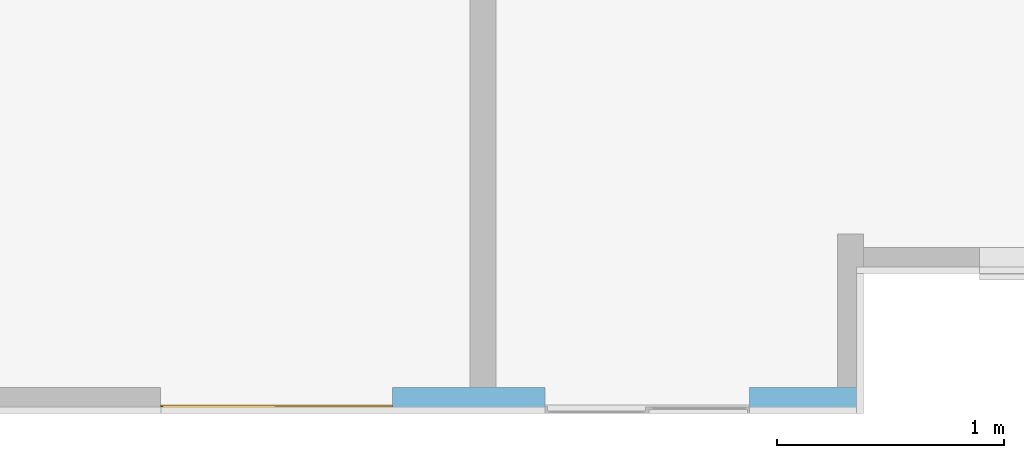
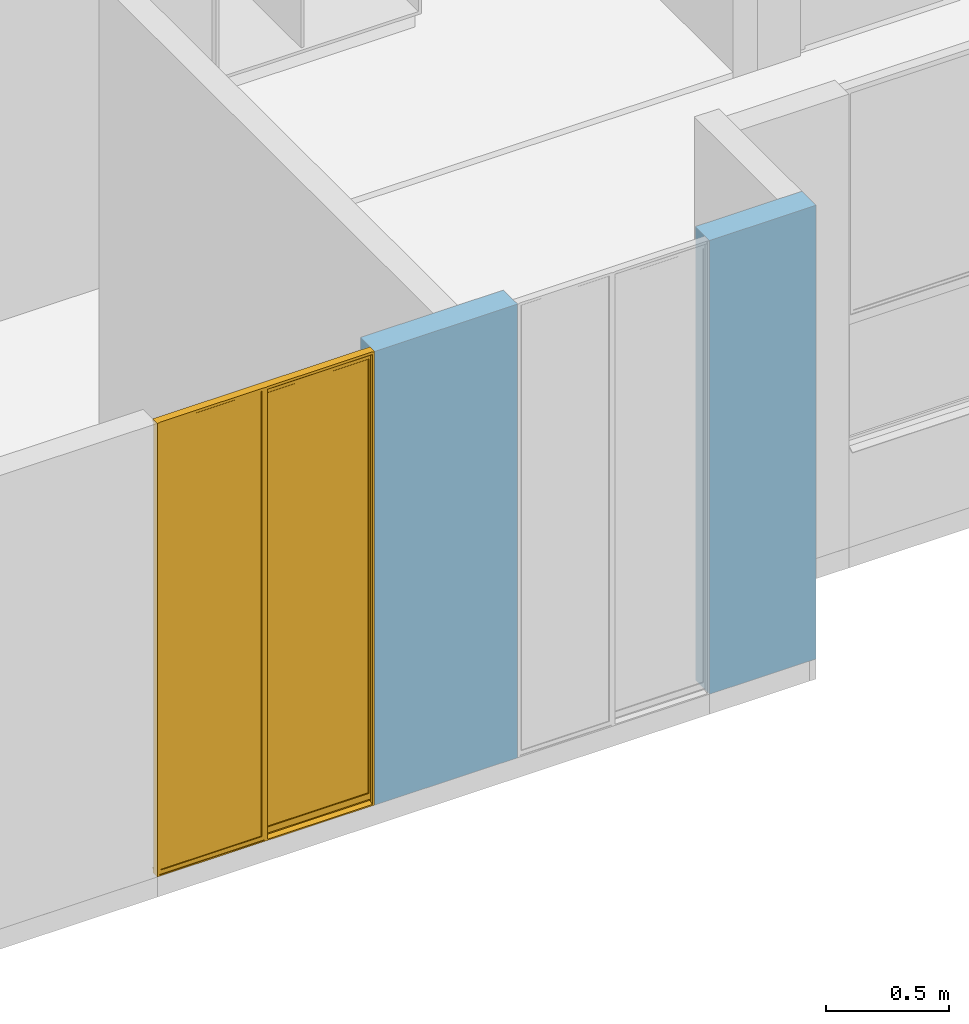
# One storey, part 5 of 48: 1 window, 2 openings, plus 1 element that does not belong to this part.
"""IFC4 building model written with IfcOpenShell, lengths in metres."""

from ifc_helpers import new_model, entity, si_unit, converted_unit, derived_unit, direction, frame, origin, place, context, subcontext, project, spatial, indexed_curve, outline, extrude, polygons, source, transform, mapped, material, constituent, constituent_set, type_object, type_shapes, element, fill, save


model = new_model("IFC4")

# Units and contexts
model_context = context("Model", 3, precision=1e-05, world=origin(), true_north=direction((6.123031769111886e-17, 1.0)))
body_context = subcontext(model_context, "Body", "Model", "MODEL_VIEW")
ifc_project = project(units=[si_unit("LENGTHUNIT", "METRE"), si_unit("AREAUNIT", "SQUARE_METRE"), si_unit("VOLUMEUNIT", "CUBIC_METRE"), converted_unit("PLANEANGLEUNIT", "DEGREE", entity("IfcRatioMeasure", 0.017453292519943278), si_unit("PLANEANGLEUNIT", "RADIAN"), dimensions=[0, 0, 0, 0, 0, 0, 0]), si_unit("MASSUNIT", "GRAM", prefix="KILO"), derived_unit("MASSDENSITYUNIT", [(si_unit("MASSUNIT", "GRAM", prefix="KILO"), 1), (si_unit("LENGTHUNIT", "METRE"), -3)]), derived_unit("IONCONCENTRATIONUNIT", [(si_unit("MASSUNIT", "GRAM", prefix="KILO"), 1), (si_unit("LENGTHUNIT", "METRE"), -3)]), derived_unit("MOMENTOFINERTIAUNIT", [(si_unit("LENGTHUNIT", "METRE"), 4)]), si_unit("TIMEUNIT", "SECOND"), si_unit("FREQUENCYUNIT", "HERTZ"), si_unit("THERMODYNAMICTEMPERATUREUNIT", "DEGREE_CELSIUS"), derived_unit("THERMALTRANSMITTANCEUNIT", [(si_unit("MASSUNIT", "GRAM", prefix="KILO"), 1), (si_unit("THERMODYNAMICTEMPERATUREUNIT", "KELVIN"), -1), (si_unit("TIMEUNIT", "SECOND"), -3)]), derived_unit("THERMALCONDUCTANCEUNIT", [(si_unit("MASSUNIT", "GRAM", prefix="KILO"), 1), (si_unit("THERMODYNAMICTEMPERATUREUNIT", "KELVIN"), -1), (si_unit("TIMEUNIT", "SECOND"), -3), (si_unit("LENGTHUNIT", "METRE"), 1)]), derived_unit("VOLUMETRICFLOWRATEUNIT", [(si_unit("LENGTHUNIT", "METRE"), 3), (si_unit("TIMEUNIT", "SECOND"), -1)]), derived_unit("MASSFLOWRATEUNIT", [(si_unit("MASSUNIT", "GRAM", prefix="KILO"), 1), (si_unit("TIMEUNIT", "SECOND"), -1)]), derived_unit("ROTATIONALFREQUENCYUNIT", [(si_unit("TIMEUNIT", "SECOND"), -1)]), si_unit("ELECTRICCURRENTUNIT", "AMPERE"), si_unit("ELECTRICVOLTAGEUNIT", "VOLT"), si_unit("POWERUNIT", "WATT"), si_unit("FORCEUNIT", "NEWTON", prefix="KILO"), si_unit("ILLUMINANCEUNIT", "LUX"), si_unit("LUMINOUSFLUXUNIT", "LUMEN"), si_unit("LUMINOUSINTENSITYUNIT", "CANDELA"), derived_unit("USERDEFINED", [(si_unit("MASSUNIT", "GRAM", prefix="KILO"), -1), (si_unit("LENGTHUNIT", "METRE"), -2), (si_unit("TIMEUNIT", "SECOND"), 3), (si_unit("LUMINOUSFLUXUNIT", "LUMEN"), 1)]), derived_unit("USERDEFINED", [(si_unit("MASSUNIT", "GRAM", prefix="KILO"), 1), (si_unit("TIMEUNIT", "SECOND"), -3), (si_unit("LENGTHUNIT", "METRE"), 3), (si_unit("ELECTRICCURRENTUNIT", "AMPERE"), -2)]), derived_unit("SOUNDPOWERUNIT", [(si_unit("MASSUNIT", "GRAM", prefix="KILO"), 1), (si_unit("TIMEUNIT", "SECOND"), -3), (si_unit("LENGTHUNIT", "METRE"), 2)]), derived_unit("SOUNDPRESSUREUNIT", [(si_unit("MASSUNIT", "GRAM", prefix="KILO"), 1), (si_unit("LENGTHUNIT", "METRE"), -1), (si_unit("TIMEUNIT", "SECOND"), -2)]), derived_unit("LINEARVELOCITYUNIT", [(si_unit("LENGTHUNIT", "METRE"), 1), (si_unit("TIMEUNIT", "SECOND"), -1)]), si_unit("PRESSUREUNIT", "PASCAL"), derived_unit("USERDEFINED", [(si_unit("MASSUNIT", "GRAM", prefix="KILO"), 1), (si_unit("LENGTHUNIT", "METRE"), -2), (si_unit("TIMEUNIT", "SECOND"), -2)]), derived_unit("LINEARFORCEUNIT", [(si_unit("MASSUNIT", "GRAM", prefix="KILO"), 1), (si_unit("TIMEUNIT", "SECOND"), -2)]), derived_unit("PLANARFORCEUNIT", [(si_unit("MASSUNIT", "GRAM", prefix="KILO"), 1), (si_unit("LENGTHUNIT", "METRE"), -1), (si_unit("TIMEUNIT", "SECOND"), -2)]), derived_unit("SPECIFICHEATCAPACITYUNIT", [(si_unit("THERMODYNAMICTEMPERATUREUNIT", "KELVIN"), -1), (si_unit("LENGTHUNIT", "METRE"), 2), (si_unit("TIMEUNIT", "SECOND"), -2)]), derived_unit("HEATINGVALUEUNIT", [(si_unit("LENGTHUNIT", "METRE"), 2), (si_unit("TIMEUNIT", "SECOND"), -2)]), derived_unit("VAPORPERMEABILITYUNIT", [(si_unit("LENGTHUNIT", "METRE"), -1), (si_unit("TIMEUNIT", "SECOND"), 1)]), derived_unit("DYNAMICVISCOSITYUNIT", [(si_unit("MASSUNIT", "GRAM", prefix="KILO"), 1), (si_unit("TIMEUNIT", "SECOND"), -1), (si_unit("LENGTHUNIT", "METRE"), -1)]), derived_unit("THERMALEXPANSIONCOEFFICIENTUNIT", [(si_unit("THERMODYNAMICTEMPERATUREUNIT", "KELVIN"), -1)]), derived_unit("MODULUSOFELASTICITYUNIT", [(si_unit("MASSUNIT", "GRAM", prefix="KILO"), 1), (si_unit("LENGTHUNIT", "METRE"), -1), (si_unit("TIMEUNIT", "SECOND"), -2)]), derived_unit("ISOTHERMALMOISTURECAPACITYUNIT", [(si_unit("LENGTHUNIT", "METRE"), 3), (si_unit("MASSUNIT", "GRAM", prefix="KILO"), -1)]), derived_unit("MOISTUREDIFFUSIVITYUNIT", [(si_unit("TIMEUNIT", "SECOND"), -1), (si_unit("LENGTHUNIT", "METRE"), 2)])], contexts=[model_context])

# Site, building, storey
site_placement = place(None, origin())
site = spatial("IfcSite", under=ifc_project, at=site_placement, Name="Default", CompositionType="ELEMENT")
building_placement = place(site_placement, origin())
building = spatial("IfcBuilding", under=site, at=building_placement, CompositionType="ELEMENT")
storey_placement = place(building_placement, frame((0.0, 0.0, 9.40000000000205)))
storey = spatial("IfcBuildingStorey", under=building, at=storey_placement, Name="Nivel 5", CompositionType="ELEMENT", Elevation=9.40000000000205)

# Wall, openings, window
ifc_material_1 = material(Name="Ladrillo claro (Aire)", Category="Materials")
wall_type = type_object("IfcWallType", Name="Basic Wall:B2010 - 0.115m - Muro exterior en mampostería - Ladrillo", PredefinedType="STANDARD")
wall_placement = place(storey_placement, frame((6.182499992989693, -12.812500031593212, 0.0), z_axis=(0.0, 0.0, 1.0), x_axis=(-1.0, 0.0, 0.0)))
wall = element("IfcWall", 1, at=wall_placement, inside=storey, type_object=wall_type, material=ifc_material_1, Name="Basic Wall:B2010 - 0.115m - Muro exterior en mampostería - Ladrillo", ObjectType="Basic Wall:B2010 - 0.115m - Muro exterior en mampostería - Ladrillo", PredefinedType="NOTDEFINED", context=body_context, shape_type="Tessellation", body=[
    polygons([(7.744918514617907e-16, -0.057499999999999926, 2.250000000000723), (7.744918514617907e-16, -0.057499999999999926, -1.0828671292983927e-15), (0.11500000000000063, -0.057499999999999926, -1.0828671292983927e-15), (0.5000000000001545, -0.057499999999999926, -1.0828671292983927e-15), (0.5000000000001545, -0.057499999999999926, 2.250000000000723), (0.11500000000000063, -0.057499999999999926, 2.250000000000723), (1.371029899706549e-16, 0.057499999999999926, -1.0828671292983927e-15), (0.500000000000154, 0.057499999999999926, -1.0828671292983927e-15), (0.500000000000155, 0.057499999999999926, 2.250000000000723), (1.371029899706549e-16, 0.057499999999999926, 2.250000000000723)], [[[1, 2, 3, 4, 5, 6]], [[2, 7, 8, 4, 3]], [[5, 4, 8, 9]], [[2, 1, 10, 7]], [[10, 1, 6, 5, 9]], [[7, 10, 9, 8]]], closed=True),
    polygons([(2.0707999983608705, 0.057499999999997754, 2.250000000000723), (2.0707999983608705, 0.057499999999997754, -1.0828671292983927e-15), (1.4000000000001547, 0.057499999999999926, -1.0828671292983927e-15), (1.4000000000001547, 0.057499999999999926, 2.250000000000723), (2.07079999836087, -0.05750000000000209, 2.250000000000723), (1.4000000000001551, -0.057499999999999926, 2.250000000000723), (1.6149999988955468, -0.057499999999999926, 2.250000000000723), (1.7299999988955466, -0.057499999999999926, 2.250000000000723), (2.07079999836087, -0.05750000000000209, -1.0828671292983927e-15), (1.4000000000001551, -0.057499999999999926, -1.0828671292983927e-15), (1.729999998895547, -0.057499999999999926, -1.0828671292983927e-15), (1.6149999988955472, -0.057499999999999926, -1.0828671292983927e-15)], [[[1, 2, 3, 4]], [[5, 1, 4, 6, 7, 8]], [[5, 9, 2, 1]], [[10, 6, 4, 3]], [[2, 9, 11, 12, 10, 3]], [[9, 5, 8, 7, 6, 10, 12, 11]]], closed=True),
])
opening_1_placement = place(wall_placement, frame((3.0907999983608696, 0.057499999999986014, 0.0)))
opening_1 = element("IfcOpeningElement", 2, at=opening_1_placement, cuts=wall, Name="B2020 - Ventana corrediza 2C - Aluminio + Vidrio:B2020 - 1.02m x 2.25m - Ventana corrediza 2C - Aluminio + Vidrio:1", PredefinedType="OPENING", context=body_context, shape_type="SweptSolid", body=[
    extrude(outline(indexed_curve([(0.0, -7.326610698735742e-30), (2.2499999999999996, -7.326610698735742e-30), (2.249999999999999, 1.0199999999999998), (0.0, 1.0199999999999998), (0.0, -7.326610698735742e-30)], self_intersect=False)), frame((0.0, 0.0, 0.0), z_axis=(0.0, -1.0, 0.0), x_axis=(0.0, 0.0, 1.0)), (0.0, 0.0, 1.0), 0.115),
])
opening_2_placement = place(wall_placement, frame((1.4000000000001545, 0.05749999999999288, 0.0)))
element("IfcOpeningElement", 3, at=opening_2_placement, cuts=wall, Name="B2020 - Ventana corrediza 2C - Aluminio + Vidrio:B2020 - 0.90m x 2.25m - Ventana corrediza 2C - Aluminio + Vidrio:1", PredefinedType="OPENING", context=body_context, shape_type="SweptSolid", body=[
    extrude(outline(indexed_curve([(0.0, 1.3535839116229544e-16), (2.2499999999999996, 1.3535839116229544e-16), (2.249999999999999, 0.9), (0.0, 0.9), (0.0, 1.3535839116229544e-16)], self_intersect=False)), frame((0.0, 0.0, 0.0), z_axis=(0.0, -1.0, 0.0), x_axis=(0.0, 0.0, 1.0)), (0.0, 0.0, 1.0), 0.115),
])
ifc_material_2 = material(Name="Vidrio", Category="Materials")
ifc_constituent_1 = constituent(ifc_material_2, Name="Vidrio", Category="Materials")
ifc_material_3 = material(Name="<Unnamed>")
ifc_constituent_2 = constituent(ifc_material_3, Name="<Unnamed>")
ifc_constituent_set_1 = constituent_set(constituents=[ifc_constituent_1, ifc_constituent_2])
ifc_constituent_3 = constituent(ifc_material_2, Name="Vidrio", Category="Materials")
ifc_constituent_4 = constituent(ifc_material_3, Name="<Unnamed>")
ifc_constituent_set_2 = constituent_set(constituents=[ifc_constituent_3, ifc_constituent_4])
window_type = type_object("IfcWindowType", Name="B2020 - Ventana corrediza 2C - Aluminio + Vidrio:B2020 - 1.02m x 2.25m - Ventana corrediza 2C - Aluminio + Vidrio", PartitioningType="NOTDEFINED", PredefinedType="WINDOW", material=ifc_constituent_set_2)
shared_shape = source(origin(), body_context, "Body", "Tessellation", [
    polygons([(0.5301871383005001, 0.11311505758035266, 0.028641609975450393), (1.0000323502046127, 0.11311505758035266, 0.028641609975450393), (1.0000323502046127, 0.10801372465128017, 0.028641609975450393), (0.5301871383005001, 0.10801372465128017, 0.028641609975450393), (0.5301871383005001, 0.11311505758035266, 2.2347073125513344), (0.5301871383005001, 0.10801372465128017, 2.2347073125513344), (1.0000323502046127, 0.10801372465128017, 2.2347073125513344), (1.0000323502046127, 0.11311505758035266, 2.2347073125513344)], [[[1, 2, 3, 4]], [[5, 1, 4, 6]], [[6, 4, 3, 7]], [[7, 3, 2, 8]], [[8, 2, 1, 5]], [[5, 6, 7, 8]]], closed=True),
    polygons([(0.018846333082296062, 0.0962952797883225, 0.054189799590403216), (0.48827105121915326, 0.0962952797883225, 0.054189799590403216), (0.48827105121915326, 0.0919992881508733, 0.054189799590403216), (0.018846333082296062, 0.0919992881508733, 0.054189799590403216), (0.018846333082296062, 0.0962952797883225, 2.2043993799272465), (0.018846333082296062, 0.0919992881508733, 2.2043993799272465), (0.48827105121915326, 0.0919992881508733, 2.2043993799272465), (0.48827105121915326, 0.0962952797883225, 2.2043993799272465)], [[[1, 2, 3, 4]], [[5, 1, 4, 6]], [[6, 4, 3, 7]], [[7, 3, 2, 8]], [[8, 2, 1, 5]], [[5, 6, 7, 8]]], closed=True),
    polygons([(1.6039969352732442e-14, 0.08248628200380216, 0.020380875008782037), (1.6039969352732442e-14, 0.07981389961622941, 0.020380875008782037), (1.6039969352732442e-14, 0.07981389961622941, 0.025674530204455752), (1.6039969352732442e-14, 0.08106389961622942, 0.025674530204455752), (1.6039969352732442e-14, 0.08106389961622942, 0.02163087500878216), (1.6039969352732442e-14, 0.08373628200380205, 0.02163087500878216), (1.6039969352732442e-14, 0.08373628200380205, 0.017447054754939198), (1.6039969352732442e-14, 0.08932238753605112, 0.017447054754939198), (1.6039969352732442e-14, 0.08932238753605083, 2.24863686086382), (1.6039969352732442e-14, 0.0810593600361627, 2.24863686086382), (1.6039969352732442e-14, 0.0810593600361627, 2.2365872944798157), (1.6039969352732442e-14, 0.07969622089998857, 2.2365872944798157), (1.5972290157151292e-14, 0.07969622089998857, 2.2499999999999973), (1.6039969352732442e-14, 0.11748628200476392, 2.2499999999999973), (1.6039969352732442e-14, 0.11748628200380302, -2.5718094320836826e-15), (1.6039969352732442e-14, 0.08248628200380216, -2.5718094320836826e-15), (1.0200000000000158, 0.08248628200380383, 0.020380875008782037), (1.0200000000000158, 0.08248628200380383, -2.5718094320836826e-15), (1.0200000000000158, 0.11748628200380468, -2.5718094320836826e-15), (0.5166454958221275, 0.11748628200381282, 2.2499999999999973), (0.5166454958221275, 0.11748628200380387, 0.006176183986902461), (1.0100000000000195, 0.11748628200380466, 0.006176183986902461), (1.0100000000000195, 0.11748628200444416, 2.2499999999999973), (1.0200000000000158, 0.11748628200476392, 2.2499999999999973), (0.009897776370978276, 0.11748628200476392, 2.2499999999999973), (0.009897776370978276, 0.11748628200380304, 0.006176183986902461), (0.5033545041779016, 0.11748628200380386, 0.006176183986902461), (0.5033545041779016, 0.11748628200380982, 2.2499999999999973), (0.016298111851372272, 0.08932238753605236, 2.2069861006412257), (0.5033545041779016, 0.08932238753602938, 2.2069861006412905), (0.5033545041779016, 0.08932238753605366, 2.2043993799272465), (0.490819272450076, 0.08932238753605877, 2.2043993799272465), (0.4908192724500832, 0.08932238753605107, 0.0519155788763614), (0.01629811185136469, 0.0893223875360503, 0.0519155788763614), (0.01629811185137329, 0.08932238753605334, 2.237270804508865), (0.01629811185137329, 0.08932238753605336, 2.24863686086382), (0.003762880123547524, 0.08932238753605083, 0.017447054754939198), (0.003762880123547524, 0.08932238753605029, 0.02163087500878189), (0.5033545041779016, 0.08932238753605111, 0.021630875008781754), (0.5033545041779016, 0.08932238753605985, 0.017447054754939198), (0.5180471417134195, 0.08932238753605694, 0.017447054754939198), (0.5180471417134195, 0.08932238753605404, 2.24863686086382), (0.5033545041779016, 0.08932238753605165, 2.24863686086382), (0.5033545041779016, 0.0893223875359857, 2.237270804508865), (1.0200000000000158, 0.0837362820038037, 0.017447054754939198), (1.0200000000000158, 0.08548628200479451, 0.017447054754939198), (1.0100000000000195, 0.08548628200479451, 0.017447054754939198), (1.0100000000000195, 0.09284764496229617, 0.017447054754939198), (0.5180471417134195, 0.09284764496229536, 0.017447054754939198), (0.5033545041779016, 0.09284764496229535, 0.017447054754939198), (0.003762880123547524, 0.09284764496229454, 0.017447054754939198), (1.0200000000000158, 0.0837362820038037, 0.02163087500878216), (1.0200000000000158, 0.08106389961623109, 0.02163087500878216), (1.0200000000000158, 0.08106389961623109, 0.025674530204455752), (1.0200000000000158, 0.07981389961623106, 0.025674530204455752), (1.0200000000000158, 0.07981389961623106, 0.020380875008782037), (0.018842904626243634, 0.09629339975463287, 0.054191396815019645), (0.4882772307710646, 0.09629080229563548, 0.054191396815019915), (0.4908192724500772, 0.09897218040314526, 0.051915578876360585), (0.016298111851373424, 0.0989721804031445, 0.051915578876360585), (0.016298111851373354, 0.09897218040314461, 2.237270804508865), (0.016298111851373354, 0.09897218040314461, 2.24863686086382), (0.01884633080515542, 0.0962732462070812, 2.24863686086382), (0.01884631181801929, 0.0962733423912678, 2.237270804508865), (0.490819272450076, 0.09897218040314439, 2.2043993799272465), (0.5033545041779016, 0.09897218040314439, 2.2043993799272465), (0.5033545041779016, 0.0989721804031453, 0.02163087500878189), (0.009897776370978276, 0.09897218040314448, 0.021630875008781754), (0.009897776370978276, 0.09897218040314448, 2.24863686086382), (0.5033545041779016, 0.0989721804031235, 2.237270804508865), (0.5033545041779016, 0.09897218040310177, 2.2069861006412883), (0.016298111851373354, 0.09897218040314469, 2.206986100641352), (0.48827105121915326, 0.09628607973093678, 2.2043993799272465), (0.018840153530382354, 0.09200376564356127, 0.05419139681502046), (0.488274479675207, 0.0920011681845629, 0.05419139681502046), (0.018846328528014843, 0.09202132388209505, 2.24863686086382), (0.018846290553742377, 0.09202124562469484, 2.237270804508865), (0.48827105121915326, 0.09200839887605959, 2.20439928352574), (0.5180471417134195, 0.09284764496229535, 0.011279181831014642), (0.5180471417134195, 0.0961232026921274, 0.010600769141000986), (0.5180471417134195, 0.09612320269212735, 0.014402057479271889), (0.5180471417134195, 0.10582811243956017, 0.014402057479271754), (0.5180471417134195, 0.1058281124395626, 2.24863686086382), (0.5033545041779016, 0.0919994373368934, 2.2043993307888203), (0.003762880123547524, 0.09897218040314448, 0.021630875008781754), (0.003762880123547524, 0.09284764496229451, 0.011279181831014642), (0.003762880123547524, 0.0989721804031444, 0.010010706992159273), (0.009897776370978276, 0.0989721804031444, 0.010010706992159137), (0.009897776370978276, 0.1153006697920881, 2.2499999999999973), (0.009897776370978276, 0.11530066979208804, 2.2369062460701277), (0.009897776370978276, 0.11310173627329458, 2.2347073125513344), (0.009897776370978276, 0.10802704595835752, 2.2347073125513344), (0.009897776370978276, 0.10582811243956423, 2.2369062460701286), (0.009897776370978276, 0.10582811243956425, 2.24863686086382), (1.0200000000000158, 0.07969622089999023, 2.2499999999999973), (1.0200000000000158, 0.07969622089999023, 2.2365872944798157), (1.0200000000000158, 0.08105936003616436, 2.2365872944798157), (1.0200000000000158, 0.08105936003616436, 2.24863686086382), (1.0200000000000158, 0.08548628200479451, 2.24863686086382), (1.0100000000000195, 0.08548628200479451, 2.24863686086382), (1.0100000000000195, 0.09284764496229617, 0.011279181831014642), (1.0100000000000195, 0.10582811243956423, 2.24863686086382), (1.0100000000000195, 0.10582811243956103, 0.014402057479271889), (1.0100000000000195, 0.09612320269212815, 0.014402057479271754), (1.0100000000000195, 0.09612320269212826, 0.010600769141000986), (0.5166454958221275, 0.11530066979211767, 0.006628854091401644), (0.5166454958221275, 0.11530066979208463, 2.2499999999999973), (1.0100000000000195, 0.11530066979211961, 0.0066288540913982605), (1.0100000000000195, 0.11530066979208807, 2.2499999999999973), (0.5033545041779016, 0.11530066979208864, 2.2499999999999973), (0.5033545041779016, 0.11530066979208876, 2.2369062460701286), (0.5276389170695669, 0.11530066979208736, 0.02682441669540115), (0.5276389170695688, 0.11530066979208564, 2.236906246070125), (0.5301871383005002, 0.1131150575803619, 2.234713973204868), (0.5301871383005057, 0.1131150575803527, 0.028641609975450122), (1.0000323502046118, 0.11311505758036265, 0.028641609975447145), (1.0000323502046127, 0.11311505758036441, 2.2347139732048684), (1.0025805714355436, 0.11530066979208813, 2.236906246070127), (1.002580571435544, 0.1153006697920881, 0.02682441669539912), (1.0000323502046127, 0.10801372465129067, 0.02864160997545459), (0.5301871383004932, 0.10801372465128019, 0.028641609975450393), (0.5276389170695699, 0.10582811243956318, 0.02682441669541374), (1.002580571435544, 0.10582811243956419, 0.026824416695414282), (0.5276389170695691, 0.10582811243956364, 2.2369062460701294), (1.002580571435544, 0.10582811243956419, 2.23690624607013), (1.000031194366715, 0.10801638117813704, 2.2347113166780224), (0.5301882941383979, 0.1080163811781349, 2.234711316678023), (0.5033545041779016, 0.0962951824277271, 2.204399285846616), (0.018846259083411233, 0.09627365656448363, 2.204388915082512), (0.0188444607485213, 0.09201660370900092, 2.2043931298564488), (0.5033545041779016, 0.10582811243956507, 2.24863686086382), (0.5033545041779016, 0.10802704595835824, 2.2347073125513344), (0.5033545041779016, 0.10582811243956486, 2.2369062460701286), (0.5033545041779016, 0.11310173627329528, 2.2347073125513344), (0.5033545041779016, 0.09284764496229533, 0.011279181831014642)], [[[1, 2, 3, 4, 5, 6, 7, 8, 9, 10, 11, 12, 13, 14, 15, 16]], [[17, 1, 16, 18]], [[16, 15, 19, 18]], [[20, 21, 22, 23, 24, 19, 15, 14, 25, 26, 27, 28]], [[35, 36, 9, 8, 37, 38, 39, 40, 41, 42, 43, 44], [29, 30, 31, 32, 33, 34]], [[45, 46, 47, 48, 49, 41, 40, 50, 51, 37, 8, 7]], [[45, 7, 6, 52]], [[52, 6, 5, 53]], [[53, 5, 4, 54]], [[54, 4, 3, 55]], [[55, 3, 2, 56]], [[56, 2, 1, 17]], [[57, 58, 59, 60]], [[61, 62, 63, 64]], [[60, 59, 65, 66, 67, 68, 69, 62, 61, 70, 71, 72]], [[65, 59, 58, 73]], [[74, 75, 58, 57]], [[64, 63, 76, 77]], [[58, 75, 78, 73]], [[34, 33, 75, 74]], [[77, 76, 36, 35]], [[78, 75, 33, 32]], [[49, 79, 80, 81, 82, 83, 42, 41]], [[84, 31, 30]], [[39, 38, 85, 68, 67]], [[85, 38, 37, 51, 86, 87]], [[68, 85, 87, 88]], [[25, 89, 90, 91, 92, 93, 94, 69, 68, 88, 26]], [[17, 18, 19, 24, 95, 96, 97, 98, 99, 46, 45, 52, 53, 54, 55, 56]], [[46, 99, 100, 47]], [[49, 48, 101, 79]], [[47, 100, 102, 103, 104, 105, 101, 48]], [[79, 101, 105, 80]], [[106, 21, 20, 107]], [[23, 22, 108, 109]], [[110, 111, 90, 89]], [[80, 105, 104, 81]], [[112, 113, 114, 115]], [[116, 117, 118, 119]], [[119, 112, 115, 116]], [[120, 121, 122, 123]], [[103, 102, 83, 82], [122, 124, 125, 123]], [[123, 125, 126, 120]], [[121, 127, 124, 122]], [[81, 104, 103, 82]], [[120, 126, 117, 116]], [[116, 115, 121, 120]], [[115, 114, 127, 121]], [[13, 95, 24, 23, 109, 107, 20, 28, 110, 89, 25, 14]], [[72, 71, 128, 73, 129]], [[129, 73, 78, 130]], [[130, 78, 84, 30, 29]], [[77, 35, 44, 70, 61, 64]], [[31, 84, 78, 32]], [[97, 11, 10, 98]], [[96, 12, 11, 97]], [[95, 13, 12, 96]], [[118, 117, 114, 113]], [[127, 114, 117, 126]], [[124, 127, 126, 125]], [[10, 9, 36, 76, 63, 62, 69, 94, 131, 43, 42, 83, 102, 100, 99, 98]], [[132, 133, 93, 92]], [[134, 132, 92, 91]], [[111, 134, 91, 90]], [[73, 128, 66, 65]], [[133, 131, 94, 93]], [[109, 108, 106, 107], [112, 119, 118, 113]], [[106, 108, 22, 21]], [[27, 26, 88, 87, 86, 135]], [[135, 86, 51, 50]], [[27, 135, 50, 40, 39, 67, 66, 128, 71, 70, 44, 43, 131, 133, 132, 134, 111, 110, 28]], [[74, 130, 29, 34]], [[57, 129, 130, 74]], [[60, 72, 129, 57]]], closed=True),
])
type_shapes(window_type, [shared_shape])
window_placement = place(opening_1_placement, frame((-1.020000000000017, -0.11748628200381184, 0.0)))
window = element("IfcWindow", 4, at=window_placement, inside=storey, type_object=window_type, material=ifc_constituent_set_1, Name="B2020 - Ventana corrediza 2C - Aluminio + Vidrio:B2020 - 1.02m x 2.25m - Ventana corrediza 2C - Aluminio + Vidrio", ObjectType="B2020 - Ventana corrediza 2C - Aluminio + Vidrio:B2020 - 1.02m x 2.25m - Ventana corrediza 2C - Aluminio + Vidrio", OverallHeight=2.2499999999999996, OverallWidth=1.0199999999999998, PartitioningType="NOTDEFINED", PredefinedType="WINDOW", context=body_context, shape_type="MappedRepresentation", body=[
    mapped(shared_shape, transform((0.0, 0.0, 0.0), scale=1.0)),
])
fill(opening_1, window)

save(model, "model.ifc")
